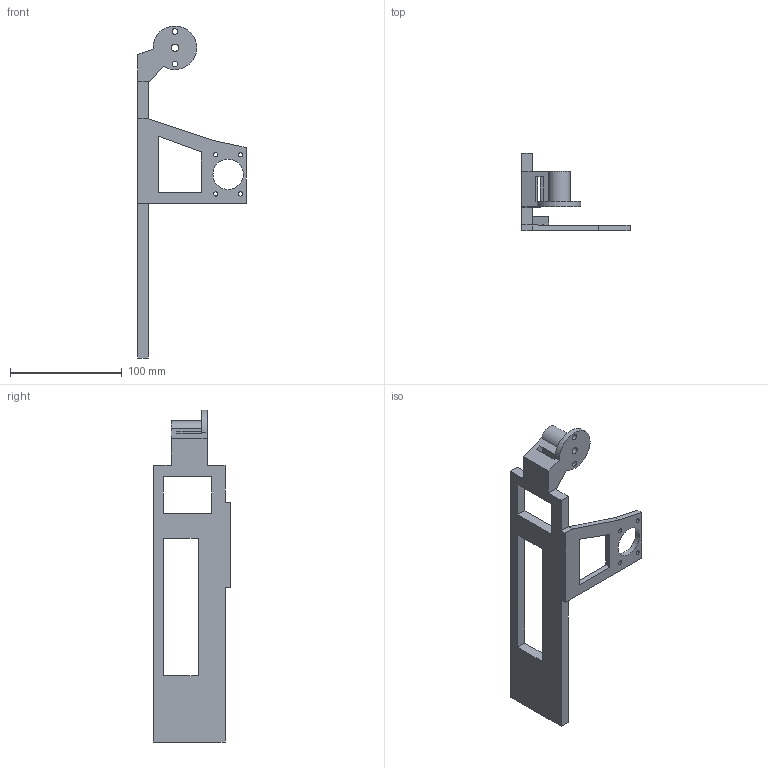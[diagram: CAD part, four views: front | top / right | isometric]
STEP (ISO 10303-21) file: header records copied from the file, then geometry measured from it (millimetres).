
FILE_DESCRIPTION(('Open CASCADE Model'),'2;1');
FILE_NAME('Open CASCADE Shape Model','2026-10-16T00:13:15',('Author'),( 'Open CASCADE'),'Open CASCADE STEP processor 7.9','Open CASCADE 7.9' ,'Unknown');
FILE_SCHEMA(('AUTOMOTIVE_DESIGN { 1 0 10303 214 1 1 1 1 }'));
Length unit declared in the file: millimetre
Products named in the file (1): Open CASCADE STEP translator 7.9 4
Bounding box: 96.5 x 69 x 296.45 mm (x, y, z)
Volume: 143998.7 mm3; surface area: 49422.3 mm2
Topology: 1 solids, 1 shells, 50 faces, 150 edges, 100 vertices
Faces by surface type: plane 40, cylinder 10
Full cylindrical faces by diameter (mm): 3.8 x4, 5 x2, 6.5 x1, 27.2 x1
Entity records: 3694 total; most frequent: CARTESIAN_POINT 625, DIRECTION 568, LINE 410, VECTOR 410, ORIENTED_EDGE 300, PCURVE 300, DEFINITIONAL_REPRESENTATION 300, EDGE_CURVE 150
